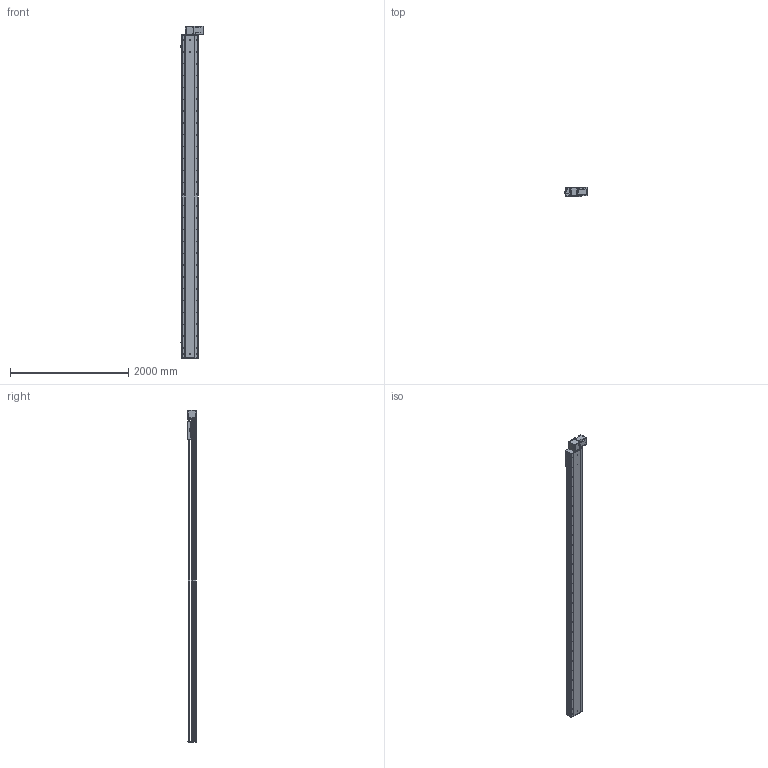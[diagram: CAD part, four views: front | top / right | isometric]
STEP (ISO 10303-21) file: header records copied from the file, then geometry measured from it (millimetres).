
FILE_DESCRIPTION (( 'STEP AP214' ), '1' );
FILE_NAME ('RTB28S-XX-5000-BL-M100-XX-C4.STEP', '2025-12-22T02:49:36', ( '' ), ( '' ), 'SwSTEP 2.0', 'SolidWorks 2018', '' );
FILE_SCHEMA (( 'AUTOMOTIVE_DESIGN' ));
Length unit declared in the file: millimetre
Products named in the file (4): RTB28S-GY-004^RTB28S-XX-XX-BL-M100-XX-C4; RTB28S-XX-5000-BL-M100-XX-C4; RTB28S-GY-011^RTB28S-XX-XX-BL-M100-XX-C4; RTB28S-GY-008^RTB28S-XX-XX-BL-M100-XX-C4
Assembly tree (3 placements, depth 2):
  RTB28S-XX-5000-BL-M100-XX-C4
    RTB28S-GY-011^RTB28S-XX-XX-BL-M100-XX-C4
    RTB28S-GY-004^RTB28S-XX-XX-BL-M100-XX-C4
    RTB28S-GY-008^RTB28S-XX-XX-BL-M100-XX-C4
Bounding box: 380.7 x 145 x 5607 mm (x, y, z)
Volume: 92604605.7 mm3; surface area: 8546248.1 mm2
Topology: 3 solids, 4 shells, 988 faces, 2688 edges, 1728 vertices
Faces by surface type: cylinder 519, plane 385, cone 80, torus 4
Entity records: 39233 total; most frequent: CARTESIAN_POINT 8002, DIRECTION 5742, ORIENTED_EDGE 5312, EDGE_CURVE 2656, AXIS2_PLACEMENT_3D 2156, VERTEX_POINT 1728, VECTOR 1430, LINE 1430
